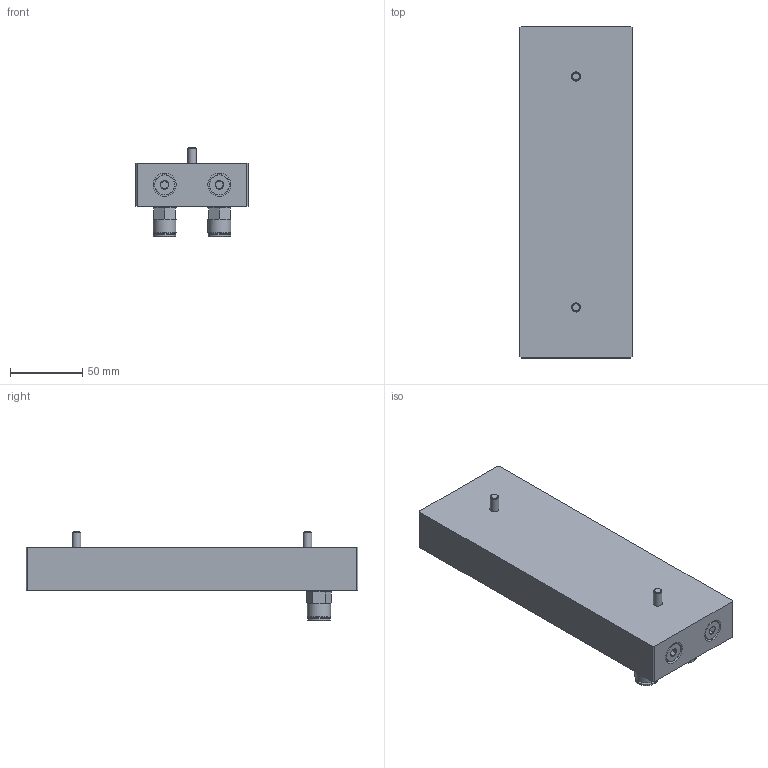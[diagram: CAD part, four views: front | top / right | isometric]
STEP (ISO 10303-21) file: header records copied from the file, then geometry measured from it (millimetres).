
FILE_DESCRIPTION(/* description */ (''),/* implementation_level */ '2;1');
FILE_NAME(/* name */ 'C:\_Vault-Workspace\CAD-Daten\XPlanar\01_Motormodul\40_Sonstiges\xxxxxx Kühlkörper APS4244 mont.stp',/* time_stamp */ '2023-11-20T08:10:26+01:00',/* author */ ('JoergN'),/* organization */ (''),/* preprocessor_version */ 'ST-DEVELOPER v18.1',/* originating_system */ 'Autodesk Inventor 2022',/* authorisation */ '');
FILE_SCHEMA (('AUTOMOTIVE_DESIGN { 1 0 10303 214 3 1 1 }'));
Length unit declared in the file: millimetre
Products named in the file (5): xxxxxx Kühlkörper APS4244 mont; xxxxxx; 578343 NPQH-D-G14-Q10-P10; 3568 B-1/8; 217630
Assembly tree (8 placements, depth 2):
  xxxxxx Kühlkörper APS4244 mont
    xxxxxx
    578343 NPQH-D-G14-Q10-P10  x2
    3568 B-1/8  x3
    217630  x2
Bounding box: 78 x 230 x 62 mm (x, y, z)
Volume: 517439.4 mm3; surface area: 78548.6 mm2
Topology: 8 solids, 8 shells, 248 faces, 537 edges, 327 vertices
Faces by surface type: plane 151, cylinder 45, cone 45, torus 7
Full cylindrical faces by diameter (mm): 6 x2, 6.4 x2, 8 x5, 8.566 x3, 9.728 x3, 10 x4, 11 x2, 11.445 x2, 12 x2, 12.6 x3, 13.157 x2, 14 x6, 15.8 x2, 16 x7
Entity records: 4006 total; most frequent: CARTESIAN_POINT 845, DIRECTION 654, ORIENTED_EDGE 586, EDGE_CURVE 293, AXIS2_PLACEMENT_3D 256, VERTEX_POINT 180, EDGE_LOOP 159, LINE 142
